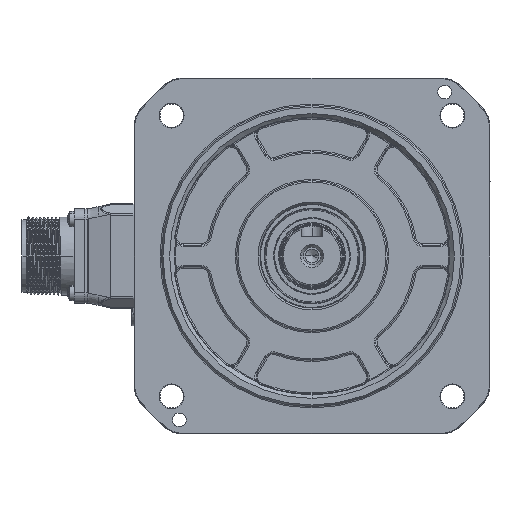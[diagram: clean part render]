
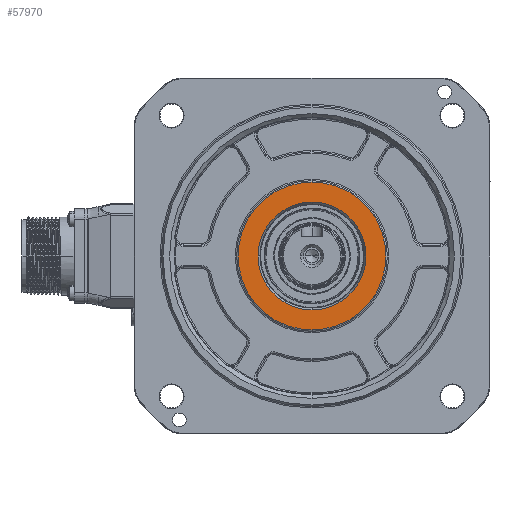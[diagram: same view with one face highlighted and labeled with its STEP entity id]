
A CAD part, left-side view. The second image highlights one B-rep face of the part: STEP entity #57970.
In plain terms, the highlighted planar face has unit normal (-1, 0, 0).
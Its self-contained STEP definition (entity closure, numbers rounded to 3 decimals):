
#1032 = CIRCLE ( 'NONE', #116220, 19.693 ) ;
#2629 = VERTEX_POINT ( 'NONE', #126520 ) ;
#3893 = AXIS2_PLACEMENT_3D ( 'NONE', #57464, #5497, #102937 ) ;
#4012 = CARTESIAN_POINT ( 'NONE',  ( 0.8, 0., 19.693 ) ) ;
#5497 = DIRECTION ( 'NONE',  ( 1., 0., 0. ) ) ;
#14573 = EDGE_CURVE ( 'NONE', #64936, #100698, #1032, .T. ) ;
#16152 = ORIENTED_EDGE ( 'NONE', *, *, #104256, .F. ) ;
#17805 = AXIS2_PLACEMENT_3D ( 'NONE', #73776, #42743, #138847 ) ;
#18159 = CARTESIAN_POINT ( 'NONE',  ( 0.8, 0., -19.693 ) ) ;
#19670 = VERTEX_POINT ( 'NONE', #41839 ) ;
#28289 = AXIS2_PLACEMENT_3D ( 'NONE', #57792, #124975, #80913 ) ;
#32180 = ORIENTED_EDGE ( 'NONE', *, *, #88659, .T. ) ;
#37236 = PLANE ( 'NONE',  #3893 ) ;
#41839 = CARTESIAN_POINT ( 'NONE',  ( 0.8, 0., 27. ) ) ;
#42743 = DIRECTION ( 'NONE',  ( -1., 0., 0. ) ) ;
#52683 = DIRECTION ( 'NONE',  ( -1., 0., 0. ) ) ;
#52893 = ORIENTED_EDGE ( 'NONE', *, *, #115093, .T. ) ;
#57464 = CARTESIAN_POINT ( 'NONE',  ( 0.8, 27.5, 0. ) ) ;
#57792 = CARTESIAN_POINT ( 'NONE',  ( 0.8, 0., 0. ) ) ;
#57970 = ADVANCED_FACE ( 'NONE', ( #58884, #137641 ), #37236, .F. ) ;
#58884 = FACE_BOUND ( 'NONE', #68117, .T. ) ;
#60540 = CIRCLE ( 'NONE', #28289, 27. ) ;
#64936 = VERTEX_POINT ( 'NONE', #18159 ) ;
#68117 = EDGE_LOOP ( 'NONE', ( #16152, #110731 ) ) ;
#73776 = CARTESIAN_POINT ( 'NONE',  ( 0.8, 0., 0. ) ) ;
#80913 = DIRECTION ( 'NONE',  ( 0., 0., -1. ) ) ;
#88659 = EDGE_CURVE ( 'NONE', #2629, #19670, #60540, .T. ) ;
#88801 = DIRECTION ( 'NONE',  ( -1., 0., 0. ) ) ;
#89780 = AXIS2_PLACEMENT_3D ( 'NONE', #109034, #88801, #107626 ) ;
#91576 = CIRCLE ( 'NONE', #17805, 27. ) ;
#95358 = EDGE_LOOP ( 'NONE', ( #32180, #52893 ) ) ;
#100698 = VERTEX_POINT ( 'NONE', #4012 ) ;
#102937 = DIRECTION ( 'NONE',  ( 0., 0., -1. ) ) ;
#104256 = EDGE_CURVE ( 'NONE', #100698, #64936, #117401, .T. ) ;
#107626 = DIRECTION ( 'NONE',  ( 0., 0., -1. ) ) ;
#109034 = CARTESIAN_POINT ( 'NONE',  ( 0.8, 0., 0. ) ) ;
#110731 = ORIENTED_EDGE ( 'NONE', *, *, #14573, .F. ) ;
#115093 = EDGE_CURVE ( 'NONE', #19670, #2629, #91576, .T. ) ;
#116220 = AXIS2_PLACEMENT_3D ( 'NONE', #138704, #52683, #126421 ) ;
#117401 = CIRCLE ( 'NONE', #89780, 19.693 ) ;
#124975 = DIRECTION ( 'NONE',  ( -1., 0., 0. ) ) ;
#126421 = DIRECTION ( 'NONE',  ( 0., 0., -1. ) ) ;
#126520 = CARTESIAN_POINT ( 'NONE',  ( 0.8, 0., -27. ) ) ;
#137641 = FACE_OUTER_BOUND ( 'NONE', #95358, .T. ) ;
#138704 = CARTESIAN_POINT ( 'NONE',  ( 0.8, 0., 0. ) ) ;
#138847 = DIRECTION ( 'NONE',  ( 0., 0., -1. ) ) ;
